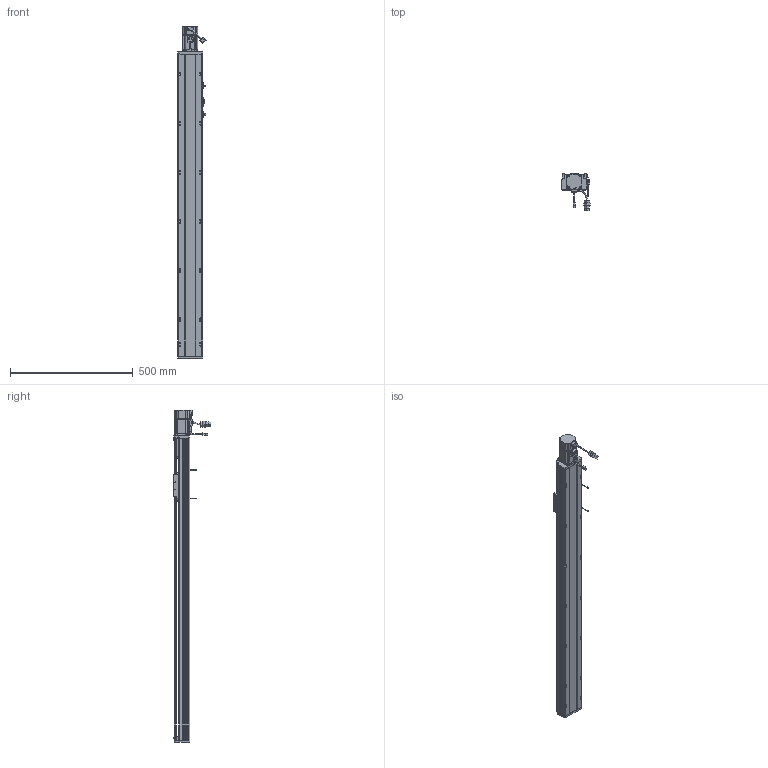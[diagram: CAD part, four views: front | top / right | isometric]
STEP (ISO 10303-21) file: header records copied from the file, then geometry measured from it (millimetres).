
FILE_DESCRIPTION (( 'STEP AP214' ), '1' );
FILE_NAME ('CTH10-1000.STEP', '2019-11-18T08:22:34', ( '微软用户' ), ( '微软中国' ), 'SwSTEP 2.0', 'SolidWorks 2017', '' );
FILE_SCHEMA (( 'AUTOMOTIVE_DESIGN' ));
Length unit declared in the file: millimetre
Products named in the file (34): 遣喳蝶15x12x8; CTH10-底座_默认<按加工>; M5-L20囀鞠褒蹟佪; CTH10粣創釱蚾饜极; CTH10-1000; M3-L10囀鞠褒蹟佪; M4-L8囀鞠褒蹟佪; 坶踡蹟譫; COL12B-粣遠; 粣創揤啣; 噩砃MGN12C-2R420-Z0CHC; 7001-DF; 噩砃MGN12C-R1; BEARING_BaseModel20190604090351; 噩砃MGN12C; CTH10-粣創釱; 噩砃M3-L10囀鞠褒蹟佪; 怢湛200W侜督萇儂ECMA-CX0602ES; MGN12C-2R420-Z0CHC; CTH10-盖板_默认<按加工>; MGN12C-R1; SFH1605; MGN12C; SFH1605-288; 100耀郪-覜茼んえ; CTH10-侜督萇儂啣; M3-L8囀鞠褒蹟佪; CTH10-傷啣; EE-SX672; CTH10-盓傅釱; M4-L6半圆头内六角螺丝; CTH10-蹟簽蟀諉啣; 6000Z粣創; CTH10-移动座_默认<按加工>
Assembly tree (100 placements, depth 4):
  CTH10-1000
    CTH10-底座_默认<按加工>
    CTH10-移动座_默认<按加工>
    CTH10-蹟簽蟀諉啣
    CTH10-盓傅釱
    CTH10-傷啣
    CTH10-侜督萇儂啣
    SFH1605-288
    SFH1605
    CTH10-盖板_默认<按加工>
    怢湛200W侜督萇儂ECMA-CX0602ES
    CTH10粣創釱蚾饜极
      CTH10-粣創釱
      7001-DF
        BEARING_BaseModel20190604090351  x2
      粣創揤啣
      COL12B-粣遠  x2
      坶踡蹟譫
      M4-L8囀鞠褒蹟佪  x4
      M3-L10囀鞠褒蹟佪  x6
    M3-L10囀鞠褒蹟佪  x19
    M5-L20囀鞠褒蹟佪  x4
    遣喳蝶15x12x8  x3
    6000Z粣創
    M4-L6半圆头内六角螺丝  x4
    M4-L8囀鞠褒蹟佪  x8
    EE-SX672  x2
    M3-L8囀鞠褒蹟佪  x4
    100耀郪-覜茼んえ
    MGN12C-2R420-Z0CHC
      MGN12C
      MGN12C-R1  x2
      M3-L10囀鞠褒蹟佪  x8
    噩砃M3-L10囀鞠褒蹟佪
    噩砃MGN12C-2R420-Z0CHC
      噩砃MGN12C
      噩砃MGN12C-R1  x2
      噩砃M3-L10囀鞠褒蹟佪  x8
Bounding box: 114.24 x 151.37 x 1352 mm (x, y, z)
Volume: 3324183.2 mm3; surface area: 1257554.7 mm2
Topology: 96 solids, 105 shells, 4817 faces, 12262 edges, 7666 vertices
Faces by surface type: plane 2370, cylinder 1560, cone 601, bspline 241, torus 33, sphere 12
Entity records: 105378 total; most frequent: CARTESIAN_POINT 31838, ORIENTED_EDGE 15028, DIRECTION 14461, EDGE_CURVE 7514, AXIS2_PLACEMENT_3D 5218, VERTEX_POINT 4880, LINE 4025, VECTOR 4025
